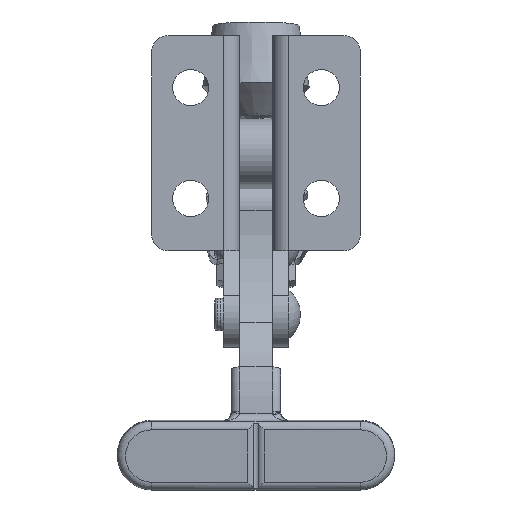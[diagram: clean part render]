
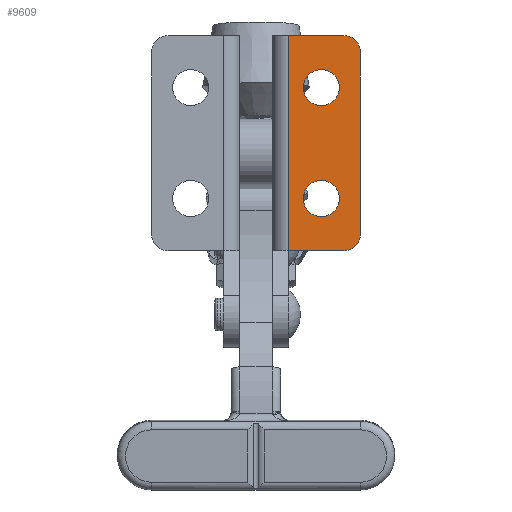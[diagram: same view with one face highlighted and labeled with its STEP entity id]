
A CAD part, front view. The second image highlights one B-rep face of the part: STEP entity #9609.
In plain terms, the highlighted planar face has unit normal (0, -1, 0).
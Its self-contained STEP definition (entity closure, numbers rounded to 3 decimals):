
#325=FACE_BOUND('',#3315,.T.);
#326=FACE_BOUND('',#3316,.T.);
#836=PLANE('',#10414);
#1136=LINE('',#14929,#1915);
#1137=LINE('',#14933,#1916);
#1138=LINE('',#14935,#1917);
#1139=LINE('',#14937,#1918);
#1915=VECTOR('',#11272,1000.);
#1916=VECTOR('',#11275,1000.);
#1917=VECTOR('',#11276,1000.);
#1918=VECTOR('',#11277,1000.);
#2765=FACE_OUTER_BOUND('',#3314,.T.);
#3314=EDGE_LOOP('',(#6930,#6931,#6932,#6933,#6934,#6935));
#3315=EDGE_LOOP('',(#6936,#6937));
#3316=EDGE_LOOP('',(#6938,#6939));
#3903=CIRCLE('',#10391,2.2);
#3906=CIRCLE('',#10394,2.2);
#3907=CIRCLE('',#10396,2.2);
#3910=CIRCLE('',#10399,2.2);
#3922=CIRCLE('',#10415,2.);
#3923=CIRCLE('',#10416,2.);
#4153=VERTEX_POINT('',#14044);
#4154=VERTEX_POINT('',#14045);
#4157=VERTEX_POINT('',#14054);
#4158=VERTEX_POINT('',#14055);
#4251=VERTEX_POINT('',#14927);
#4252=VERTEX_POINT('',#14928);
#4253=VERTEX_POINT('',#14930);
#4254=VERTEX_POINT('',#14932);
#4255=VERTEX_POINT('',#14934);
#4256=VERTEX_POINT('',#14936);
#5198=EDGE_CURVE('',#4153,#4154,#3903,.T.);
#5202=EDGE_CURVE('',#4154,#4153,#3906,.T.);
#5203=EDGE_CURVE('',#4157,#4158,#3907,.T.);
#5207=EDGE_CURVE('',#4158,#4157,#3910,.T.);
#5300=EDGE_CURVE('',#4251,#4252,#1136,.T.);
#5301=EDGE_CURVE('',#4253,#4252,#3922,.T.);
#5302=EDGE_CURVE('',#4253,#4254,#1137,.T.);
#5303=EDGE_CURVE('',#4255,#4254,#1138,.T.);
#5304=EDGE_CURVE('',#4256,#4255,#1139,.T.);
#5305=EDGE_CURVE('',#4251,#4256,#3923,.T.);
#6930=ORIENTED_EDGE('',*,*,#5300,.T.);
#6931=ORIENTED_EDGE('',*,*,#5301,.F.);
#6932=ORIENTED_EDGE('',*,*,#5302,.T.);
#6933=ORIENTED_EDGE('',*,*,#5303,.F.);
#6934=ORIENTED_EDGE('',*,*,#5304,.F.);
#6935=ORIENTED_EDGE('',*,*,#5305,.F.);
#6936=ORIENTED_EDGE('',*,*,#5198,.F.);
#6937=ORIENTED_EDGE('',*,*,#5202,.F.);
#6938=ORIENTED_EDGE('',*,*,#5203,.F.);
#6939=ORIENTED_EDGE('',*,*,#5207,.F.);
#9609=ADVANCED_FACE('',(#2765,#325,#326),#836,.F.);
#10391=AXIS2_PLACEMENT_3D('',#14046,#11180,#11181);
#10394=AXIS2_PLACEMENT_3D('',#14052,#11187,#11188);
#10396=AXIS2_PLACEMENT_3D('',#14056,#11191,#11192);
#10399=AXIS2_PLACEMENT_3D('',#14062,#11198,#11199);
#10414=AXIS2_PLACEMENT_3D('',#14926,#11270,#11271);
#10415=AXIS2_PLACEMENT_3D('',#14931,#11273,#11274);
#10416=AXIS2_PLACEMENT_3D('',#14938,#11278,#11279);
#11180=DIRECTION('center_axis',(0.,-1.,0.));
#11181=DIRECTION('ref_axis',(0.,0.,1.));
#11187=DIRECTION('center_axis',(0.,-1.,0.));
#11188=DIRECTION('ref_axis',(0.,0.,1.));
#11191=DIRECTION('center_axis',(0.,-1.,0.));
#11192=DIRECTION('ref_axis',(0.,0.,1.));
#11198=DIRECTION('center_axis',(0.,-1.,0.));
#11199=DIRECTION('ref_axis',(0.,0.,1.));
#11270=DIRECTION('center_axis',(0.,1.,0.));
#11271=DIRECTION('ref_axis',(0.,0.,1.));
#11272=DIRECTION('',(0.,0.,1.));
#11273=DIRECTION('center_axis',(0.,1.,0.));
#11274=DIRECTION('ref_axis',(0.,0.,1.));
#11275=DIRECTION('',(-1.,0.,0.));
#11276=DIRECTION('',(0.,0.,1.));
#11277=DIRECTION('',(-1.,0.,0.));
#11278=DIRECTION('center_axis',(0.,1.,0.));
#11279=DIRECTION('ref_axis',(0.,0.,1.));
#14044=CARTESIAN_POINT('',(11.95,0.,8.55));
#14045=CARTESIAN_POINT('',(11.95,0.,4.15));
#14046=CARTESIAN_POINT('Origin',(11.95,0.,6.35));
#14052=CARTESIAN_POINT('Origin',(11.95,0.,6.35));
#14054=CARTESIAN_POINT('',(11.95,0.,22.05));
#14055=CARTESIAN_POINT('',(11.95,0.,17.65));
#14056=CARTESIAN_POINT('Origin',(11.95,0.,19.85));
#14062=CARTESIAN_POINT('Origin',(11.95,0.,19.85));
#14926=CARTESIAN_POINT('Origin',(6.,0.,26.2));
#14927=CARTESIAN_POINT('',(16.7,0.,2.));
#14928=CARTESIAN_POINT('',(16.7,0.,24.2));
#14929=CARTESIAN_POINT('',(16.7,0.,26.2));
#14930=CARTESIAN_POINT('',(14.7,0.,26.2));
#14931=CARTESIAN_POINT('Origin',(14.7,0.,24.2));
#14932=CARTESIAN_POINT('',(8.,0.,26.2));
#14933=CARTESIAN_POINT('',(6.,0.,26.2));
#14934=CARTESIAN_POINT('',(8.,0.,0.));
#14935=CARTESIAN_POINT('',(8.,0.,26.2));
#14936=CARTESIAN_POINT('',(14.7,0.,0.));
#14937=CARTESIAN_POINT('',(6.,0.,0.));
#14938=CARTESIAN_POINT('Origin',(14.7,0.,2.));
